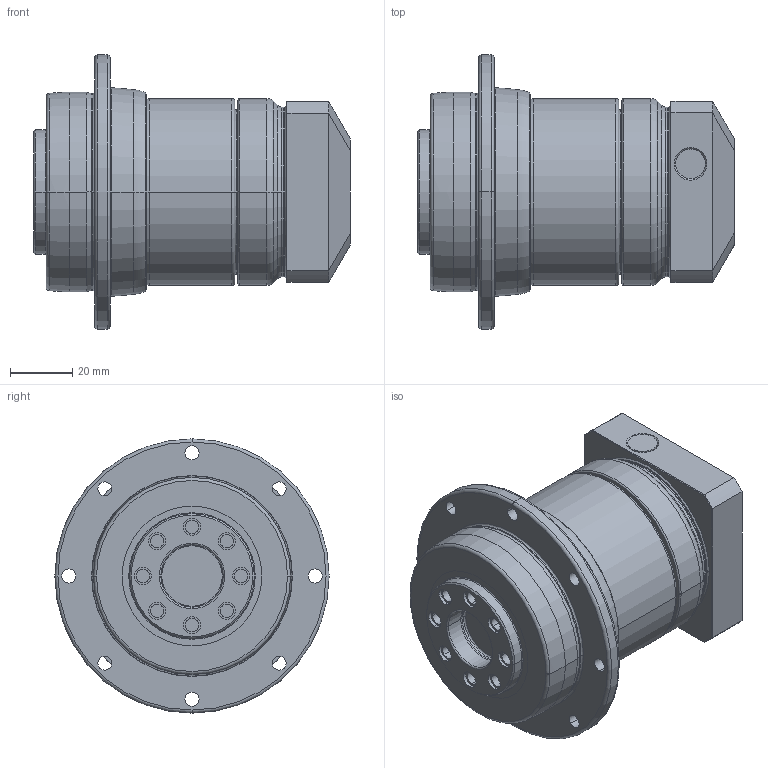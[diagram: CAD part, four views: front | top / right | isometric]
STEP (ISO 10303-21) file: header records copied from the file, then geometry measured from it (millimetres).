
FILE_DESCRIPTION((''),'2;1');
FILE_NAME('PD064_2ST_8-P0411100101_ASM','2016-06-03T',('d01943'),(''),'PRO/ENGINEER BY PARAMETRIC TECHNOLOGY CORPORATION, 2008410','PRO/ENGINEER BY PARAMETRIC TECHNOLOGY CORPORATION, 2008410','');
FILE_SCHEMA(('CONFIG_CONTROL_DESIGN'));
Length unit declared in the file: millimetre
Products named in the file (8): P1355200001; P0367200001; P0275200001; P1324200001; P0411100101; P0503100005; P0941200001; PD064_2ST_8-P0411100101_ASM
Assembly tree (7 placements, depth 2):
  PD064_2ST_8-P0411100101_ASM
    P1355200001
    P0367200001
    P0275200001
    P1324200001
    P0411100101
    P0503100005
    P0941200001
Bounding box: 101.5 x 88 x 88 mm (x, y, z)
Volume: 282681.2 mm3; surface area: 67677.4 mm2
Topology: 7 solids, 7 shells, 380 faces, 875 edges, 524 vertices
Faces by surface type: cylinder 135, torus 82, cone 82, plane 67, bspline 14
Entity records: 15733 total; most frequent: CARTESIAN_POINT 6763, DIRECTION 2017, ORIENTED_EDGE 1730, AXIS2_PLACEMENT_3D 874, EDGE_CURVE 865, VERTEX_POINT 524, CIRCLE 493, EDGE_LOOP 453
